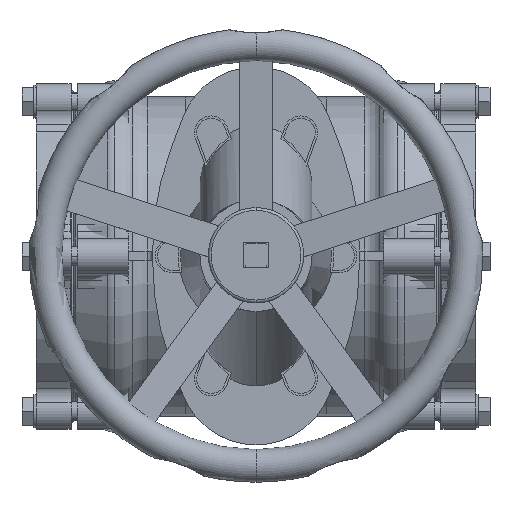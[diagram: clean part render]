
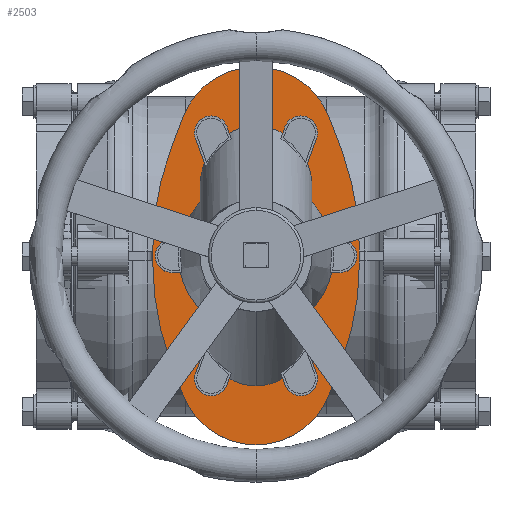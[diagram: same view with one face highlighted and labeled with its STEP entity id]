
A CAD part, top view. The second image highlights one B-rep face of the part: STEP entity #2503.
In plain terms, the highlighted planar face has unit normal (0, 0, 1).
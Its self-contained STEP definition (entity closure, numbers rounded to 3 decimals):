
#2503=ADVANCED_FACE('',(#5162),#5163,.T.);
#5162=FACE_OUTER_BOUND('',#8864,.T.);
#5163=PLANE('',#8865);
#8864=EDGE_LOOP('',(#12847,#12848,#12849,#12850,#12851,#12852,#12853,#12854,#12855,#12856,#12857,#12858,#12859,#12860));
#8865=AXIS2_PLACEMENT_3D('',#12861,#12862,#12863);
#12847=ORIENTED_EDGE('',*,*,#20392,.F.);
#12848=ORIENTED_EDGE('',*,*,#20393,.F.);
#12849=ORIENTED_EDGE('',*,*,#20394,.F.);
#12850=ORIENTED_EDGE('',*,*,#20395,.F.);
#12851=ORIENTED_EDGE('',*,*,#20396,.F.);
#12852=ORIENTED_EDGE('',*,*,#20397,.F.);
#12853=ORIENTED_EDGE('',*,*,#20398,.F.);
#12854=ORIENTED_EDGE('',*,*,#20399,.F.);
#12855=ORIENTED_EDGE('',*,*,#20400,.F.);
#12856=ORIENTED_EDGE('',*,*,#20352,.F.);
#12857=ORIENTED_EDGE('',*,*,#20401,.F.);
#12858=ORIENTED_EDGE('',*,*,#20402,.F.);
#12859=ORIENTED_EDGE('',*,*,#20403,.F.);
#12860=ORIENTED_EDGE('',*,*,#20404,.F.);
#12861=CARTESIAN_POINT('',(60.056,0.,388.0));
#12862=DIRECTION('',(0.0,0.0,1.0));
#12863=DIRECTION('',(1.0,0.0,0.0));
#20352=EDGE_CURVE('',#24074,#24075,#24076,.T.);
#20392=EDGE_CURVE('',#24140,#24141,#24142,.T.);
#20393=EDGE_CURVE('',#24143,#24140,#24144,.T.);
#20394=EDGE_CURVE('',#24145,#24143,#24146,.T.);
#20395=EDGE_CURVE('',#24147,#24145,#24148,.T.);
#20396=EDGE_CURVE('',#24149,#24147,#24150,.T.);
#20397=EDGE_CURVE('',#24151,#24149,#24152,.T.);
#20398=EDGE_CURVE('',#24153,#24151,#24154,.T.);
#20399=EDGE_CURVE('',#24155,#24153,#24156,.T.);
#20400=EDGE_CURVE('',#24075,#24155,#24157,.T.);
#20401=EDGE_CURVE('',#24158,#24074,#24159,.T.);
#20402=EDGE_CURVE('',#24160,#24158,#24161,.T.);
#20403=EDGE_CURVE('',#24162,#24160,#24163,.T.);
#20404=EDGE_CURVE('',#24141,#24162,#24164,.T.);
#24074=VERTEX_POINT('',#29006);
#24075=VERTEX_POINT('',#29007);
#24076=LINE('',#29008,#29009);
#24140=VERTEX_POINT('',#29095);
#24141=VERTEX_POINT('',#29096);
#24142=LINE('',#29097,#29098);
#24143=VERTEX_POINT('',#29099);
#24144=CIRCLE('',#29100,83.742);
#24145=VERTEX_POINT('',#29101);
#24146=LINE('',#29102,#29103);
#24147=VERTEX_POINT('',#29104);
#24148=CIRCLE('',#29105,291.369);
#24149=VERTEX_POINT('',#29106);
#24150=CIRCLE('',#29107,291.369);
#24151=VERTEX_POINT('',#29108);
#24152=CIRCLE('',#29109,291.369);
#24153=VERTEX_POINT('',#29110);
#24154=CIRCLE('',#29111,291.369);
#24155=VERTEX_POINT('',#29112);
#24156=LINE('',#29113,#29114);
#24157=CIRCLE('',#29115,83.742);
#24158=VERTEX_POINT('',#29116);
#24159=CIRCLE('',#29117,304.747);
#24160=VERTEX_POINT('',#29118);
#24161=CIRCLE('',#29119,304.747);
#24162=VERTEX_POINT('',#29120);
#24163=CIRCLE('',#29121,304.747);
#24164=CIRCLE('',#29122,304.747);
#29006=CARTESIAN_POINT('',(-30.982,114.719,388.0));
#29007=CARTESIAN_POINT('',(-18.356,148.2,388.0));
#29008=CARTESIAN_POINT('',(-18.356,148.2,388.0));
#29009=VECTOR('',#34586,1.0);
#29095=CARTESIAN_POINT('',(-18.356,-148.2,388.0));
#29096=CARTESIAN_POINT('',(-30.982,-114.719,388.0));
#29097=CARTESIAN_POINT('',(-30.982,-114.719,388.0));
#29098=VECTOR('',#34633,1.0);
#29099=CARTESIAN_POINT('',(138.356,-148.2,388.0));
#29100=AXIS2_PLACEMENT_3D('',#34634,#34635,#34636);
#29101=CARTESIAN_POINT('',(151.881,-112.368,388.0));
#29102=CARTESIAN_POINT('',(138.356,-148.2,388.0));
#29103=VECTOR('',#34637,1.0);
#29104=CARTESIAN_POINT('',(170.653,-9.474,388.0));
#29105=AXIS2_PLACEMENT_3D('',#34638,#34639,#34640);
#29106=CARTESIAN_POINT('',(170.499,0.,388.0));
#29107=AXIS2_PLACEMENT_3D('',#34641,#34642,#34643);
#29108=CARTESIAN_POINT('',(170.653,9.474,388.0));
#29109=AXIS2_PLACEMENT_3D('',#34644,#34645,#34646);
#29110=CARTESIAN_POINT('',(151.881,112.368,388.0));
#29111=AXIS2_PLACEMENT_3D('',#34647,#34648,#34649);
#29112=CARTESIAN_POINT('',(138.355,148.2,388.0));
#29113=CARTESIAN_POINT('',(151.881,112.368,388.0));
#29114=VECTOR('',#34650,1.0);
#29115=AXIS2_PLACEMENT_3D('',#34651,#34652,#34653);
#29116=CARTESIAN_POINT('',(-50.584,7.187,388.0));
#29117=AXIS2_PLACEMENT_3D('',#34654,#34655,#34656);
#29118=CARTESIAN_POINT('',(-50.5,0.,388.0));
#29119=AXIS2_PLACEMENT_3D('',#34657,#34658,#34659);
#29120=CARTESIAN_POINT('',(-50.584,-7.187,388.0));
#29121=AXIS2_PLACEMENT_3D('',#34660,#34661,#34662);
#29122=AXIS2_PLACEMENT_3D('',#34663,#34664,#34665);
#34586=DIRECTION('',(0.353,0.936,0.0));
#34633=DIRECTION('',(-0.353,0.936,0.0));
#34634=CARTESIAN_POINT('',(60.,-118.651,388.0));
#34635=DIRECTION('',(0.0,0.0,-1.0));
#34636=DIRECTION('',(1.0,0.0,0.0));
#34637=DIRECTION('',(-0.353,-0.936,-0.0));
#34638=CARTESIAN_POINT('',(-120.715,-9.474,388.0));
#34639=DIRECTION('',(0.0,0.0,-1.0));
#34640=DIRECTION('',(1.0,0.0,0.0));
#34641=CARTESIAN_POINT('',(-120.715,-9.474,388.0));
#34642=DIRECTION('',(0.0,0.0,-1.0));
#34643=DIRECTION('',(1.0,0.0,0.0));
#34644=CARTESIAN_POINT('',(-120.715,9.474,388.0));
#34645=DIRECTION('',(0.0,0.0,-1.0));
#34646=DIRECTION('',(1.0,0.0,0.0));
#34647=CARTESIAN_POINT('',(-120.715,9.474,388.0));
#34648=DIRECTION('',(0.0,0.0,-1.0));
#34649=DIRECTION('',(1.0,0.0,0.0));
#34650=DIRECTION('',(0.353,-0.936,0.0));
#34651=CARTESIAN_POINT('',(60.,118.651,388.0));
#34652=DIRECTION('',(0.0,0.0,-1.0));
#34653=DIRECTION('',(1.0,0.0,0.0));
#34654=CARTESIAN_POINT('',(254.162,7.187,388.0));
#34655=DIRECTION('',(0.0,0.0,-1.0));
#34656=DIRECTION('',(1.0,0.0,0.0));
#34657=CARTESIAN_POINT('',(254.162,7.187,388.0));
#34658=DIRECTION('',(0.0,0.0,-1.0));
#34659=DIRECTION('',(1.0,0.0,0.0));
#34660=CARTESIAN_POINT('',(254.162,-7.187,388.0));
#34661=DIRECTION('',(0.0,0.0,-1.0));
#34662=DIRECTION('',(1.0,0.0,0.0));
#34663=CARTESIAN_POINT('',(254.162,-7.187,388.0));
#34664=DIRECTION('',(0.0,0.0,-1.0));
#34665=DIRECTION('',(1.0,0.0,0.0));
